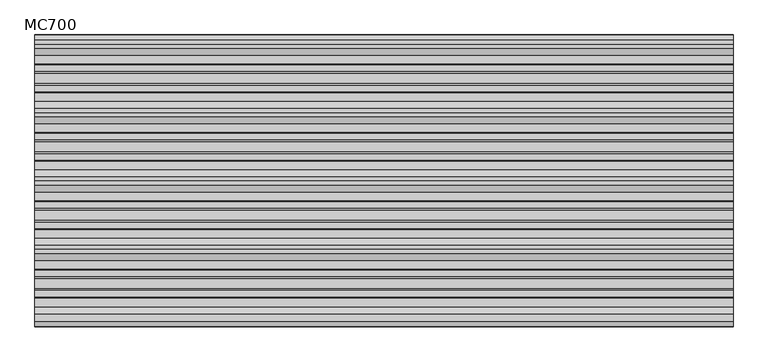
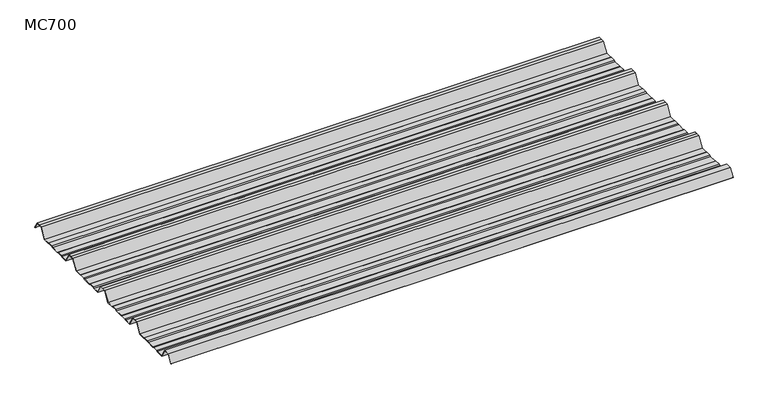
"""IFC4 building model written with IfcOpenShell, lengths in millimetres: beam geometry, 3D_Metalcraft MC700 : MC700."""

from ifc_helpers import new_model, si_unit, point, frame, frame_2d, origin, place, context, project, spatial, polyline, circle_curve, trimmed, segment, composite_curve, outline, extrude, source, transform, mapped, element, save


def mc700_2e5cd101(model_context):
    return source(origin(), model_context, "Body", "SweptSolid", [
        extrude(outline(composite_curve([segment(polyline([(279.7790109, -25.7896475), (252.7209891, -25.7896475), (248.3406714, -23.7494212), (231.9126802, -23.7494212), (228.697636, -25.7896475), (205.9999984, -25.7896475), (187.9254884, 5.2103525), (177.5, 5.2103525), (167.0745116, 5.2103525), (149.0000016, -25.7896475), (126.302364, -25.7896475), (123.0873198, -23.7494212), (106.6593286, -23.7494212), (102.2790109, -25.7896475), (75.2209891, -25.7896475), (70.8406714, -23.7494212), (54.4126802, -23.7494212), (51.197636, -25.7896475), (26.1848779, -25.7896475), (9.2764653, 3.2103525), (-9.2764653, 3.2103525), (-23.4326067, -21.0691651)]), True, "CONTINUOUS"), segment(trimmed(circle_curve(frame_2d((-23.8645497, -20.8173214)), 0.5), [point((-23.4326067, -21.0691651))], [point((-24.2964926, -20.5654776))], False, "CARTESIAN"), True, "CONTINUOUS"), segment(polyline([(-24.2964926, -20.5654776), (-9.8509769, 4.2103525), (9.8509769, 4.2103525), (26.7593894, -24.7896475), (50.9071215, -24.7896475), (54.1221657, -22.7494212), (71.0621349, -22.7494212), (75.4424527, -24.7896475), (102.0575473, -24.7896475), (106.4378651, -22.7494212), (123.3778343, -22.7494212), (126.5928785, -24.7896475), (148.42549, -24.7896475), (166.5, 6.2103525), (177.5, 6.2103525), (188.5, 6.2103525), (206.57451, -24.7896475), (228.4071215, -24.7896475), (231.6221657, -22.7494212), (248.5621349, -22.7494212), (252.9424527, -24.7896475), (279.5575473, -24.7896475), (283.9378651, -22.7494212), (300.8778343, -22.7494212), (304.0928785, -24.7896475), (325.92549, -24.7896475), (344.0, 6.2103525), (355.0, 6.2103525), (366.0, 6.2103525), (384.07451, -24.7896475), (405.9071215, -24.7896475), (409.1221657, -22.7494212), (426.0621349, -22.7494212), (430.4424527, -24.7896475), (457.0575473, -24.7896475), (461.4378651, -22.7494212), (478.3778343, -22.7494212), (481.5928785, -24.7896475), (503.42549, -24.7896475), (521.5, 6.2103525), (532.5, 6.2103525), (543.5, 6.2103525), (561.57451, -24.7896475), (583.4071215, -24.7896475), (586.6221657, -22.7494212), (603.5621349, -22.7494212), (607.9424527, -24.7896475), (634.5575473, -24.7896475), (638.9378651, -22.7494212), (655.8778343, -22.7494212), (659.0928785, -24.7896475), (680.92549, -24.7896475), (699.0, 6.2103525), (710.0, 6.2103525), (721.0, 6.2103525), (733.5921889, -15.3867949)]), True, "CONTINUOUS"), segment(trimmed(circle_curve(frame_2d((733.160246, -15.6386387)), 0.5), [point((733.5921889, -15.3867949))], [point((732.728303, -15.8904825))], False, "CARTESIAN"), True, "CONTINUOUS"), segment(polyline([(732.728303, -15.8904825), (720.4254884, 5.2103525), (710.0, 5.2103525), (699.5745116, 5.2103525), (681.5000016, -25.7896475), (658.802364, -25.7896475), (655.5873198, -23.7494212), (639.1593286, -23.7494212), (634.7790109, -25.7896475), (607.7209891, -25.7896475), (603.3406714, -23.7494212), (586.9126802, -23.7494212), (583.697636, -25.7896475), (560.9999984, -25.7896475), (542.9254884, 5.2103525), (532.5, 5.2103525), (522.0745116, 5.2103525), (504.0000016, -25.7896475), (481.302364, -25.7896475), (478.0873198, -23.7494212), (461.6593286, -23.7494212), (457.2790109, -25.7896475), (430.2209891, -25.7896475), (425.8406714, -23.7494212), (409.4126802, -23.7494212), (406.197636, -25.7896475), (383.4999984, -25.7896475), (365.4254884, 5.2103525), (355.0, 5.2103525), (344.5745116, 5.2103525), (326.5000016, -25.7896475), (303.802364, -25.7896475), (300.5873198, -23.7494212), (284.1593286, -23.7494212), (279.7790109, -25.7896475)]), True, "CONTINUOUS")], self_intersect=False)), frame((-905.0, 0.0, 0.0), z_axis=(1.0, 0.0, 0.0), x_axis=(0.0, 1.0, 0.0)), (0.0, 0.0, 1.0), 1810.0),
    ])


if __name__ == "__main__":
    model = new_model("IFC4")
    model_context = context("Model", 3, world=origin())
    ifc_project = project(units=[si_unit("LENGTHUNIT", "METRE", prefix="MILLI")], contexts=[model_context])
    site = spatial("IfcSite", under=ifc_project)
    building = spatial("IfcBuilding", under=site)
    placement = place(None, origin())
    mc700_shape = mc700_2e5cd101(model_context)
    element("IfcBeam", 1, ObjectType="3D_Metalcraft MC700 : MC700", at=placement, inside=building, context=model_context, shape_type="MappedRepresentation", body=[
        mapped(mc700_shape, transform((0.0, 0.0, 0.0), x_axis=(1.0, 0.0, 0.0), y_axis=(0.0, 1.0, 0.0), z_axis=(0.0, 0.0, 1.0))),
    ])
    save(model, "model.ifc")
